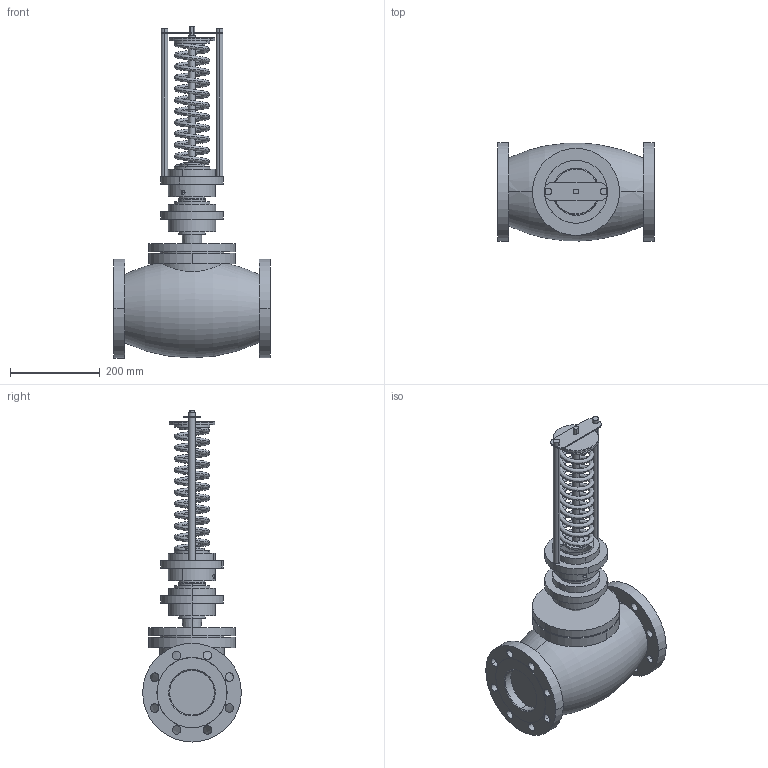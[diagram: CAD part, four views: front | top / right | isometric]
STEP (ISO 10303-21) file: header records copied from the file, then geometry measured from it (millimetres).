
FILE_DESCRIPTION (( 'STEP AP214' ), '1' );
FILE_NAME ('RDT, RDT-P DN-100 (0.1).STEP', '2025-12-12T07:24:30', ( '' ), ( '' ), 'SwSTEP 2.0', 'SolidWorks 2023', '' );
FILE_SCHEMA (( 'AUTOMOTIVE_DESIGN' ));
Length unit declared in the file: millimetre
Products named in the file (4): RDT___ DN-15-100(0.1)_8.stp; RDT, RDT-P DN-100 (0.1); RDT DN-100(______).stp; RDT, RDT-P DN-100 (0.1).stp
Assembly tree (3 placements, depth 3):
  RDT, RDT-P DN-100 (0.1)
    RDT, RDT-P DN-100 (0.1).stp
      RDT___ DN-15-100(0.1)_8.stp
      RDT DN-100(______).stp
Bounding box: 350 x 220 x 740 mm (x, y, z)
Volume: 13925935.3 mm3; surface area: 711538.4 mm2
Topology: 2 solids, 2 shells, 178 faces, 416 edges, 270 vertices
Faces by surface type: cylinder 106, plane 50, cone 14, bspline 6, torus 2
Entity records: 10500 total; most frequent: CARTESIAN_POINT 6066, DIRECTION 991, ORIENTED_EDGE 832, AXIS2_PLACEMENT_3D 420, EDGE_CURVE 416, VERTEX_POINT 270, EDGE_LOOP 244, CIRCLE 241
